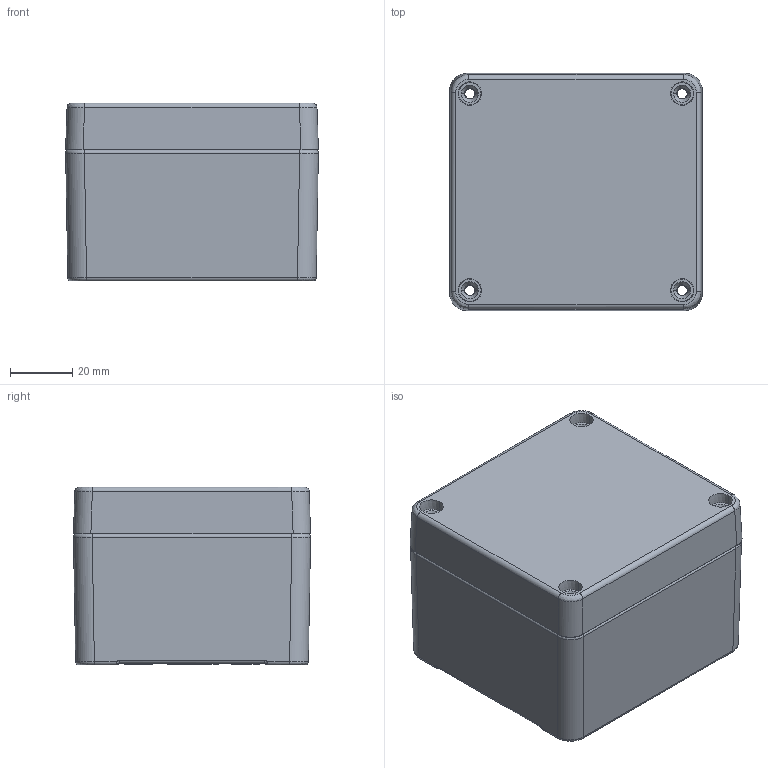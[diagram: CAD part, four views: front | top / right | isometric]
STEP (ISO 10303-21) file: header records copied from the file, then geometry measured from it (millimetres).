
FILE_DESCRIPTION (( 'STEP AP203' ), '1' );
FILE_NAME ('ALU ASSY 758057.STEP', '2024-08-27T07:04:18', ( '' ), ( '' ), 'SwSTEP 2.0', 'SolidWorks 2018', '' );
FILE_SCHEMA (( 'CONFIG_CONTROL_DESIGN' ));
Length unit declared in the file: millimetre
Products named in the file (3): ALU ASSY 758057; ALU LID 758057; ALU BASE 758057
Assembly tree (2 placements, depth 2):
  ALU ASSY 758057
    ALU BASE 758057
    ALU LID 758057
Bounding box: 80.99 x 75.99 x 57 mm (x, y, z)
Volume: 118444.4 mm3; surface area: 62259.6 mm2
Topology: 2 solids, 2 shells, 2063 faces, 5762 edges, 3764 vertices
Faces by surface type: plane 948, cylinder 935, bspline 113, cone 67
Entity records: 74006 total; most frequent: CARTESIAN_POINT 20465, ORIENTED_EDGE 11480, DIRECTION 10906, EDGE_CURVE 5740, VERTEX_POINT 3764, AXIS2_PLACEMENT_3D 3667, LINE 3572, VECTOR 3572
